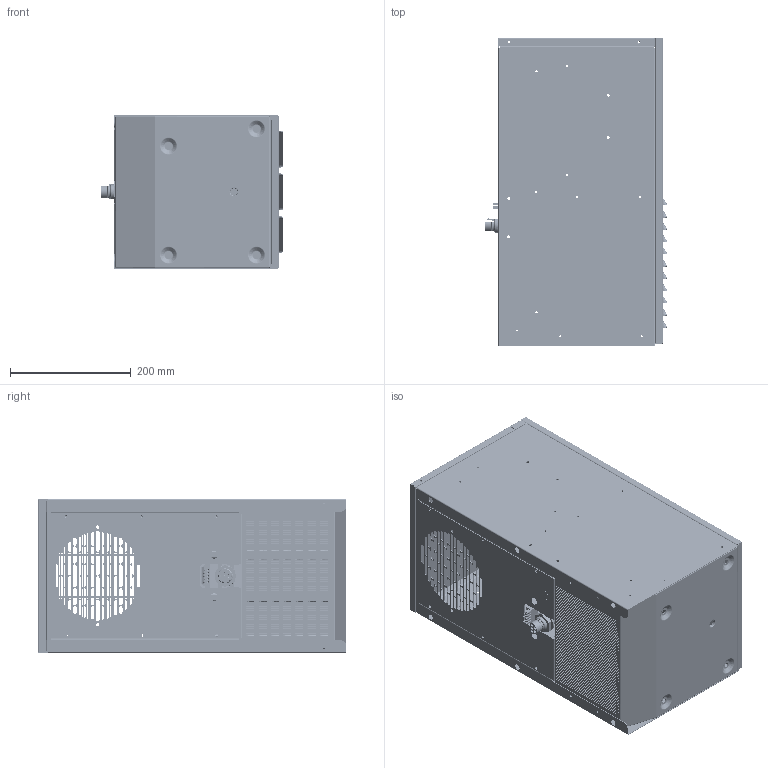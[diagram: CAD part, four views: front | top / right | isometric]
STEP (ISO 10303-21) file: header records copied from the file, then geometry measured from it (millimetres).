
FILE_DESCRIPTION (( 'STEP AP203' ), '1' );
FILE_NAME ('DTS 3081 115-230V.STEP', '2018-01-24T19:58:51', ( '' ), ( '' ), 'SwSTEP 2.0', 'SolidWorks 2017', '' );
FILE_SCHEMA (( 'CONFIG_CONTROL_DESIGN' ));
Products named in the file (13): 885000013; 30203-016_802004005; 015080031; 30203-035_813000000; 30203-024_802005017; 825500000; 30203-011_802004025; 825500030_825500030; DTS 3081 115-230V; 30203-025; 30203-026; 30203-043_802000234; 885000012
Assembly tree (12 placements, depth 2):
  DTS 3081 115-230V
    30203-016_802004005
    30203-035_813000000
    825500000
    825500030_825500030
    30203-025
    30203-026
    30203-043_802000234
    885000012
    885000013
    015080031
    30203-024_802005017
    30203-011_802004025
Bounding box: 303.35 x 512.07 x 255.54 mm (x, y, z)
Volume: 1265558.1 mm3; surface area: 1930753.8 mm2
Topology: 25 solids, 26 shells, 9324 faces, 25562 edges, 16742 vertices
Faces by surface type: plane 4397, bspline 2812, cylinder 1811, torus 186, cone 110, sphere 8
Entity records: 468684 total; most frequent: CARTESIAN_POINT 245855, ORIENTED_EDGE 51108, DIRECTION 36331, EDGE_CURVE 25554, VERTEX_POINT 16742, VECTOR 15125, LINE 15125, EDGE_LOOP 11248
